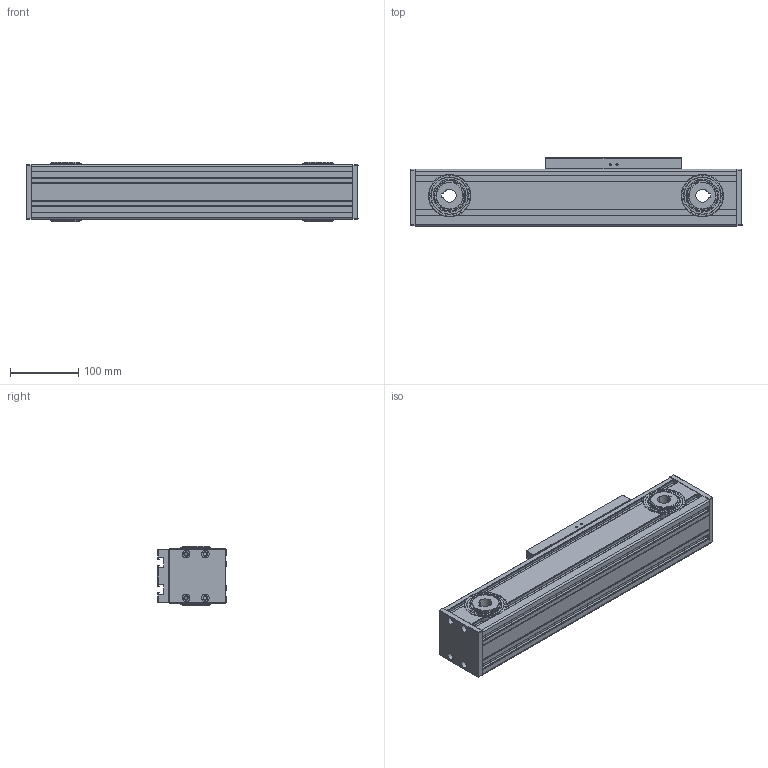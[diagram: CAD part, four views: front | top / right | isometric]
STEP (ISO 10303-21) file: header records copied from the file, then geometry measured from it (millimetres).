
FILE_DESCRIPTION (( 'STEP AP214' ), '1' );
FILE_NAME ('TKR80-100A1-F0-R3-高速内滚轮直线模组.step', '2025-10-10T03:25:33', ( '' ), ( '' ), 'SwSTEP 2.0', 'SolidWorks 2024', '' );
FILE_SCHEMA (( 'AUTOMOTIVE_DESIGN' ));
Length unit declared in the file: millimetre
Products named in the file (3): TKR80-100-R3-01; TKR80-R3-02; TKR80-100A1-F0-R3-高速内滚轮直线模组
Assembly tree (2 placements, depth 2):
  TKR80-100A1-F0-R3-高速内滚轮直线模组
    TKR80-100-R3-01
    TKR80-R3-02
Bounding box: 486 x 100 x 87 mm (x, y, z)
Volume: 1615982.5 mm3; surface area: 656951.4 mm2
Topology: 1 solids, 52 shells, 2499 faces, 6775 edges, 4338 vertices
Faces by surface type: cylinder 1279, plane 770, torus 244, cone 182, sphere 24
Entity records: 120687 total; most frequent: CARTESIAN_POINT 31465, ORIENTED_EDGE 13382, DIRECTION 13179, EDGE_CURVE 6731, AXIS2_PLACEMENT_3D 5137, VERTEX_POINT 4338, LINE 2905, VECTOR 2905
